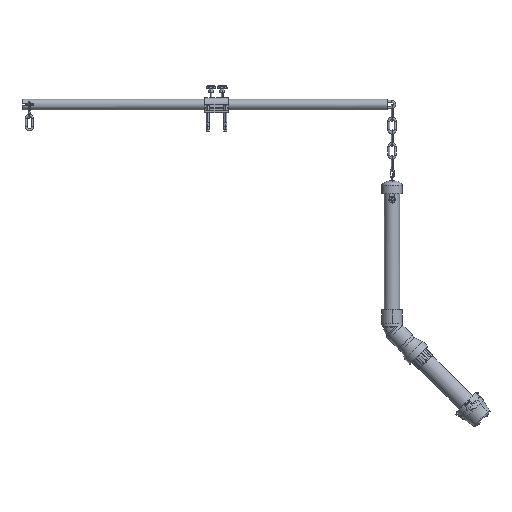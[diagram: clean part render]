
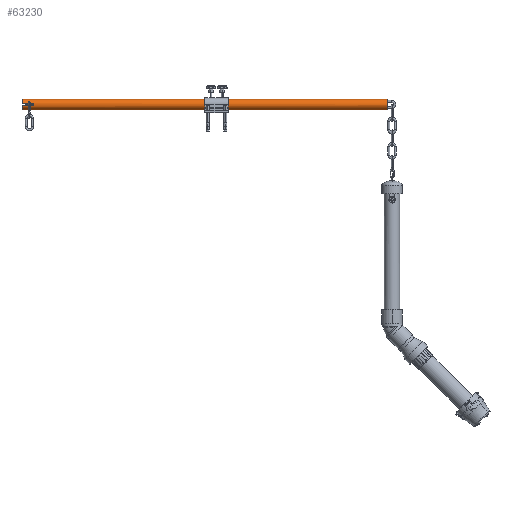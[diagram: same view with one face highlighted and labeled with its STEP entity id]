
A CAD part, top view. The second image highlights one B-rep face of the part: STEP entity #63230.
In plain terms, the highlighted cylindrical face has radius 16.85 mm (diameter 33.7 mm), a partial arc.
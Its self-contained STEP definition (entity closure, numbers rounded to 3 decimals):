
#1239 = EDGE_LOOP ( 'NONE', ( #85880, #85881, #85882, #85883, #85884, #85885, #85886, #85887 ) ) ;
#11355 = AXIS2_PLACEMENT_3D ( 'NONE', #59447, #59443, #59455 ) ;
#35866 = CARTESIAN_POINT ( 'NONE',  ( 16.85, 0., 0. ) ) ;
#35888 = CARTESIAN_POINT ( 'NONE',  ( -3.5, 16.482, 0. ) ) ;
#35906 = CARTESIAN_POINT ( 'NONE',  ( -16.85, 0., 0. ) ) ;
#35910 = CARTESIAN_POINT ( 'NONE',  ( -16.85, 0., 1150. ) ) ;
#35912 = CARTESIAN_POINT ( 'NONE',  ( 16.85, 0., 1150. ) ) ;
#35916 = CARTESIAN_POINT ( 'NONE',  ( 3.5, 16.482, 0. ) ) ;
#35918 = CARTESIAN_POINT ( 'NONE',  ( 3.5, 16.482, 36. ) ) ;
#35920 = CARTESIAN_POINT ( 'NONE',  ( -3.5, 16.482, 36. ) ) ;
#39346 = FACE_OUTER_BOUND ( 'NONE', #1239, .T. ) ;
#39355 = CYLINDRICAL_SURFACE ( 'NONE', #11355, 16.85 ) ;
#56239 = AXIS2_PLACEMENT_3D ( 'NONE', #68647, #68648, #68649 ) ;
#56284 = AXIS2_PLACEMENT_3D ( 'NONE', #74547, #74548, #74549 ) ;
#56296 = AXIS2_PLACEMENT_3D ( 'NONE', #74599, #74600, #74601 ) ;
#56315 = AXIS2_PLACEMENT_3D ( 'NONE', #74930, #74931, #74932 ) ;
#59443 = DIRECTION ( 'NONE',  ( 0., 0., 1. ) ) ;
#59447 = CARTESIAN_POINT ( 'NONE',  ( 0., 0., 0. ) ) ;
#59455 = DIRECTION ( 'NONE',  ( 1., 0., 0. ) ) ;
#63230 = ADVANCED_FACE ( 'NONE', ( #39346 ), #39355, .T. ) ;
#65905 = CIRCLE ( 'NONE', #56239, 16.85 ) ;
#68647 = CARTESIAN_POINT ( 'NONE',  ( 0., 0., 0. ) ) ;
#68648 = DIRECTION ( 'NONE',  ( 0., 0., 1. ) ) ;
#68649 = DIRECTION ( 'NONE',  ( 1., 0., 0. ) ) ;
#72862 = LINE ( 'NONE', #74373, #72867 ) ;
#72867 = VECTOR ( 'NONE', #74376, 1000. ) ;
#72918 = CIRCLE ( 'NONE', #56284, 16.85 ) ;
#72947 = LINE ( 'NONE', #74545, #72951 ) ;
#72951 = VECTOR ( 'NONE', #74546, 1000. ) ;
#72966 = CIRCLE ( 'NONE', #56296, 16.85 ) ;
#72991 = LINE ( 'NONE', #74835, #73000 ) ;
#73000 = VECTOR ( 'NONE', #74831, 1000. ) ;
#73031 = CIRCLE ( 'NONE', #56315, 16.85 ) ;
#73035 = LINE ( 'NONE', #74925, #73038 ) ;
#73038 = VECTOR ( 'NONE', #74926, 1000. ) ;
#74373 = CARTESIAN_POINT ( 'NONE',  ( 16.85, 0., 0. ) ) ;
#74376 = DIRECTION ( 'NONE',  ( 0., 0., 1. ) ) ;
#74545 = CARTESIAN_POINT ( 'NONE',  ( -16.85, 0., 0. ) ) ;
#74546 = DIRECTION ( 'NONE',  ( 0., 0., 1. ) ) ;
#74547 = CARTESIAN_POINT ( 'NONE',  ( 0., 0., 36. ) ) ;
#74548 = DIRECTION ( 'NONE',  ( 0., 0., 1. ) ) ;
#74549 = DIRECTION ( 'NONE',  ( 1., 0., 0. ) ) ;
#74599 = CARTESIAN_POINT ( 'NONE',  ( 0., 0., 1150. ) ) ;
#74600 = DIRECTION ( 'NONE',  ( 0., 0., -1. ) ) ;
#74601 = DIRECTION ( 'NONE',  ( 1., 0., 0. ) ) ;
#74831 = DIRECTION ( 'NONE',  ( 0., 0., 1. ) ) ;
#74835 = CARTESIAN_POINT ( 'NONE',  ( 3.5, 16.482, 0. ) ) ;
#74925 = CARTESIAN_POINT ( 'NONE',  ( -3.5, 16.482, 0. ) ) ;
#74926 = DIRECTION ( 'NONE',  ( 0., 0., -1. ) ) ;
#74930 = CARTESIAN_POINT ( 'NONE',  ( 0., 0., 0. ) ) ;
#74931 = DIRECTION ( 'NONE',  ( 0., 0., 1. ) ) ;
#74932 = DIRECTION ( 'NONE',  ( 1., 0., 0. ) ) ;
#76144 = EDGE_CURVE ( 'NONE', #87460, #87501, #65905, .T. ) ;
#76273 = EDGE_CURVE ( 'NONE', #87460, #87498, #72862, .T. ) ;
#76358 = EDGE_CURVE ( 'NONE', #87503, #87504, #72918, .T. ) ;
#76363 = EDGE_CURVE ( 'NONE', #87493, #87496, #72947, .T. ) ;
#76400 = EDGE_CURVE ( 'NONE', #87496, #87498, #72966, .T. ) ;
#76421 = EDGE_CURVE ( 'NONE', #87501, #87503, #72991, .T. ) ;
#76470 = EDGE_CURVE ( 'NONE', #87478, #87493, #73031, .T. ) ;
#76472 = EDGE_CURVE ( 'NONE', #87504, #87478, #73035, .T. ) ;
#85880 = ORIENTED_EDGE ( 'NONE', *, *, #76470, .T. ) ;
#85881 = ORIENTED_EDGE ( 'NONE', *, *, #76363, .T. ) ;
#85882 = ORIENTED_EDGE ( 'NONE', *, *, #76400, .T. ) ;
#85883 = ORIENTED_EDGE ( 'NONE', *, *, #76273, .F. ) ;
#85884 = ORIENTED_EDGE ( 'NONE', *, *, #76144, .T. ) ;
#85885 = ORIENTED_EDGE ( 'NONE', *, *, #76421, .T. ) ;
#85886 = ORIENTED_EDGE ( 'NONE', *, *, #76358, .T. ) ;
#85887 = ORIENTED_EDGE ( 'NONE', *, *, #76472, .T. ) ;
#87460 = VERTEX_POINT ( 'NONE', #35866 ) ;
#87478 = VERTEX_POINT ( 'NONE', #35888 ) ;
#87493 = VERTEX_POINT ( 'NONE', #35906 ) ;
#87496 = VERTEX_POINT ( 'NONE', #35910 ) ;
#87498 = VERTEX_POINT ( 'NONE', #35912 ) ;
#87501 = VERTEX_POINT ( 'NONE', #35916 ) ;
#87503 = VERTEX_POINT ( 'NONE', #35918 ) ;
#87504 = VERTEX_POINT ( 'NONE', #35920 ) ;
